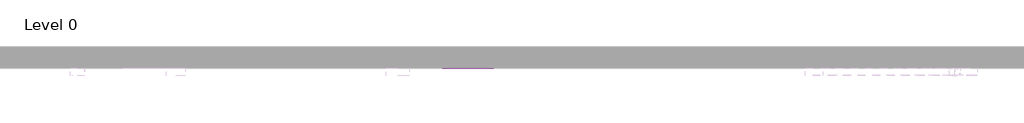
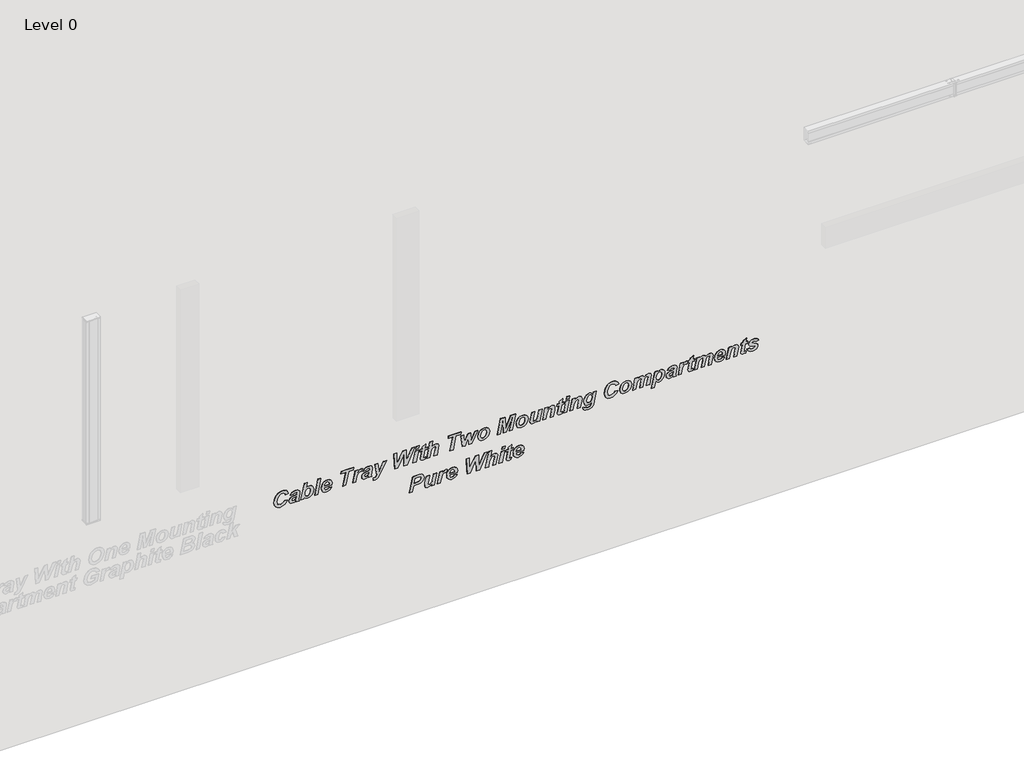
# One storey, part 5 of 5: 2 proxies.
"""IFC4 building model written with IfcOpenShell, lengths in millimetres."""

from ifc_helpers import new_model, si_unit, frame, origin, place, context, project, spatial, polyline, outline, extrude, element, save

model = new_model("IFC4")

# Units and contexts
model_context = context("Model", 3, world=origin())
ifc_project = project(units=[si_unit("LENGTHUNIT", "METRE", prefix="MILLI")], contexts=[model_context])

# Site, building, storey
site = spatial("IfcSite", under=ifc_project)
building = spatial("IfcBuilding", under=site)
storey = spatial("IfcBuildingStorey", under=building, Name="Level 0", Elevation=0.0)

# Proxies
placement = place(None, origin())
element("IfcBuildingElementProxy", 1, Name="200 mm Arial", ObjectType="200 mm Arial", at=placement, inside=storey, context=model_context, shape_type="SweptSolid", body=[
    extrude(outline(polyline([(1536.9009692, -777.7122909), (1526.554057, -784.0785483), (1519.0996299, -793.058273), (1513.0914454, -815.6587195), (1515.5375019, -827.8471495), (1522.8756716, -837.8499397), (1534.7060287, -844.5324174), (1550.6286478, -846.7599099), (1567.0488486, -845.0486004), (1583.4969513, -839.9146718), (1597.7826656, -831.9301108), (1607.7157013, -821.666904), (1613.5332236, -809.8318965), (1615.4723978, -797.1319337), (1614.0633576, -786.3199918), (1609.836237, -777.916904), (1602.4748159, -771.885468), (1591.6628739, -768.1884814), (1594.4158501, -739.6170528), (1613.9936031, -745.3415692), (1628.976862, -757.2323802), (1638.491371, -774.5175364), (1641.6628739, -796.4250885), (1638.8587445, -817.1886674), (1630.4463561, -836.3246421), (1616.741929, -852.651837), (1598.0616835, -864.9890766), (1575.8053591, -872.745773), (1551.3726954, -875.3313385), (1523.6662222, -871.5273951), (1503.4188263, -860.1155647), (1491.0304335, -841.9422016), (1486.9009692, -817.8536599), (1489.8771597, -795.3834218), (1498.8057311, -775.963779), (1513.3704632, -760.3108772), (1533.2551358, -749.1408623), (1536.9009692, -777.7122909)])), frame((0.0, 4018.0812827, 0.0), z_axis=(0.0, 1.0, 0.0), x_axis=(0.0, 0.0, 1.0)), (0.0, 0.0, 1.0), 3.0),
    extrude(outline(polyline([(1567.8533501, -694.3789576), (1576.6517132, -688.2405647), (1579.758112, -675.9265766), (1576.5029037, -664.8030647), (1568.4113858, -661.0456242), (1558.3295406, -662.980148), (1554.1628739, -690.8819337), (1550.4007832, -711.8408251), (1542.9835585, -725.2383326), (1532.1902177, -732.4509442), (1518.2997787, -734.855148), (1505.7253739, -732.6881093), (1495.6807311, -726.1869933), (1489.0959097, -716.3562641), (1486.9009692, -704.2003861), (1490.6212073, -687.5709218), (1501.4098978, -672.9503861), (1489.2819216, -670.5694337), (1489.2819216, -641.4771718), (1504.8325168, -644.3789576), (1532.2134692, -639.8402671), (1561.4359394, -633.385654), (1571.945612, -632.4741956), (1583.2504855, -634.9807061), (1592.6859394, -642.5002373), (1599.0614975, -655.2560037), (1601.1866835, -673.4712195), (1599.1359022, -691.6213311), (1592.9835585, -705.8186897), (1583.1853814, -716.2121049), (1570.1971001, -722.9503861), (1567.8533501, -694.3789576)]), holes=[polyline([(1539.2819216, -667.1096123), (1535.4128739, -667.9652671), (1519.7506716, -672.9317849), (1511.5289454, -681.3767254), (1508.3295406, -693.4116956), (1511.8265644, -702.7494933), (1520.4203144, -706.2837195), (1530.241743, -701.6706242), (1537.9798382, -673.917648), (1539.2819216, -667.1096123)])]), frame((0.0, 4018.0812827, 0.0), z_axis=(0.0, 1.0, 0.0), x_axis=(0.0, 0.0, 1.0)), (0.0, 0.0, 1.0), 3.0),
    extrude(outline(polyline([(1489.2819216, -622.9503861), (1489.2819216, -596.276279), (1506.5066239, -592.5188385), (1491.8023829, -578.7632581), (1486.9009692, -558.9250885), (1491.1606418, -540.5285111), (1504.2186775, -523.7874397), (1527.0423382, -511.0456242), (1555.9485882, -506.2837195), (1575.4147341, -508.855334), (1589.616743, -516.5701778), (1598.2941983, -528.5539948), (1601.1866835, -543.932529), (1598.5453144, -559.166904), (1589.7283501, -574.1780647), (1639.2819216, -563.2405647), (1639.2819216, -592.3328266), (1489.2819216, -622.9503861)]), holes=[polyline([(1533.2923382, -584.855148), (1553.2979186, -582.1393742), (1569.4158501, -573.9920528), (1577.1725466, -565.3331986), (1579.758112, -555.1304456), (1578.0886552, -547.3411971), (1573.0802847, -540.7889278), (1565.1515272, -536.338593), (1554.7209097, -534.855148), (1530.8927847, -539.2636302), (1513.7052847, -550.3127373), (1508.3295406, -564.2822314), (1510.0641016, -572.0389278), (1515.2677847, -578.7167552), (1523.2430451, -583.3205498), (1533.2923382, -584.855148)])]), frame((0.0, 4018.0812827, 0.0), z_axis=(0.0, 1.0, 0.0), x_axis=(0.0, 0.0, 1.0)), (0.0, 0.0, 1.0), 3.0),
    extrude(outline(polyline([(1489.2819216, -496.7599099), (1489.2819216, -467.667648), (1639.2819216, -437.0872909), (1639.2819216, -466.1423504), (1489.2819216, -496.7599099)])), frame((0.0, 4018.0812827, 0.0), z_axis=(0.0, 1.0, 0.0), x_axis=(0.0, 0.0, 1.0)), (0.0, 0.0, 1.0), 3.0),
    extrude(outline(polyline([(1534.5200168, -334.4831242), (1553.8652549, -332.4741956), (1573.7778293, -335.3666808), (1588.7238858, -344.0441361), (1598.0709841, -357.6323058), (1601.1866835, -375.2569337), (1599.710214, -389.7728378), (1595.2808055, -402.5169784), (1587.898458, -413.4893556), (1577.5631716, -422.6899695), (1558.8503739, -431.8138534), (1537.6822192, -434.855148), (1517.0116463, -431.4650811), (1500.8332608, -421.2948802), (1490.3840421, -405.7024323), (1486.9009692, -386.0456242), (1488.835493, -371.011212), (1494.6390644, -357.5299992), (1504.3116835, -346.104218), (1517.8533501, -337.2361004), (1522.6152549, -363.4265766), (1511.9009692, -372.9596867), (1508.3295406, -385.636398), (1509.9524945, -393.6721123), (1514.8213561, -400.3685409), (1522.3408873, -404.8886302), (1531.9158501, -406.3953266), (1534.5200168, -406.2837195), (1534.5200168, -334.4831242)]), holes=[polyline([(1551.1866835, -361.0456242), (1551.1866835, -403.3819337), (1563.5936775, -399.9593147), (1572.5408501, -394.3789576), (1577.9537966, -387.291904), (1579.758112, -379.3491956), (1578.1677103, -371.792462), (1573.3965049, -365.9377373), (1565.444496, -362.1849471), (1554.3116835, -360.9340171), (1551.1866835, -361.0456242)])]), frame((0.0, 4018.0812827, 0.0), z_axis=(0.0, 1.0, 0.0), x_axis=(0.0, 0.0, 1.0)), (0.0, 0.0, 1.0), 3.0),
    extrude(outline(polyline([(1489.2819216, -204.9072314), (1615.4723978, -179.4236004), (1615.4723978, -134.855148), (1639.2819216, -130.0932433), (1639.2819216, -246.7599099), (1615.4723978, -251.5218147), (1615.4723978, -208.5158623), (1489.2819216, -233.9994933), (1489.2819216, -204.9072314)])), frame((0.0, 4018.0812827, 0.0), z_axis=(0.0, 1.0, 0.0), x_axis=(0.0, 0.0, 1.0)), (0.0, 0.0, 1.0), 3.0),
    extrude(outline(polyline([(1598.8057311, -119.8625885), (1489.2819216, -141.9980052), (1489.2819216, -112.9429456), (1523.0988858, -106.1349099), (1553.7536478, -97.3923504), (1569.211237, -85.0783623), (1574.9962073, -69.6021718), (1573.5825168, -61.0456242), (1597.9500763, -49.1408623), (1601.1866835, -62.4593147), (1595.3738114, -79.386398), (1577.9351954, -95.0486004), (1598.8057311, -90.807529), (1598.8057311, -119.8625885)])), frame((0.0, 4018.0812827, 0.0), z_axis=(0.0, 1.0, 0.0), x_axis=(0.0, 0.0, 1.0)), (0.0, 0.0, 1.0), 3.0),
    extrude(outline(polyline([(1567.8533501, -18.1884814), (1576.6517132, -12.0500885), (1579.758112, 0.2638996), (1576.5029037, 11.3874115), (1568.4113858, 15.144852), (1558.3295406, 13.2103282), (1554.1628739, -14.6914576), (1550.4007832, -35.6503489), (1542.9835585, -49.0478564), (1532.1902177, -56.260468), (1518.2997787, -58.6646718), (1505.7253739, -56.4976331), (1495.6807311, -49.9965171), (1489.0959097, -40.1657879), (1486.9009692, -28.0099099), (1490.6212073, -11.3804456), (1501.4098978, 3.2400901), (1489.2819216, 5.6210424), (1489.2819216, 34.7133044), (1504.8325168, 31.8115186), (1532.2134692, 36.3502091), (1561.4359394, 42.8048222), (1571.945612, 43.7162805), (1583.2504855, 41.2097701), (1592.6859394, 33.6902389), (1599.0614975, 20.9344725), (1601.1866835, 2.7192567), (1599.1359022, -15.4308549), (1592.9835585, -29.6282135), (1583.1853814, -40.0216287), (1570.1971001, -46.7599099), (1567.8533501, -18.1884814)]), holes=[polyline([(1539.2819216, 9.0808639), (1535.4128739, 8.2252091), (1519.7506716, 3.2586913), (1511.5289454, -5.1862492), (1508.3295406, -17.2212195), (1511.8265644, -26.5590171), (1520.4203144, -30.0932433), (1530.241743, -25.480148), (1537.9798382, 2.2728282), (1539.2819216, 9.0808639)])]), frame((0.0, 4018.0812827, 0.0), z_axis=(0.0, 1.0, 0.0), x_axis=(0.0, 0.0, 1.0)), (0.0, 0.0, 1.0), 3.0),
    extrude(outline(polyline([(1598.8057311, 65.144852), (1489.2819216, 81.8115186), (1473.210493, 72.3993163), (1467.8533501, 60.6805663), (1469.3786478, 50.8591377), (1449.4009692, 48.4781853), (1446.4247787, 68.7534829), (1449.5497787, 84.3226794), (1458.1621299, 95.4089889), (1477.3771597, 108.0019948), (1598.8057311, 175.0778877), (1598.8057311, 143.7162805), (1548.3221001, 119.7579472), (1515.4723978, 104.1701496), (1543.3369811, 100.7847329), (1598.8057311, 94.0138996), (1598.8057311, 65.144852)])), frame((0.0, 4018.0812827, 0.0), z_axis=(0.0, 1.0, 0.0), x_axis=(0.0, 0.0, 1.0)), (0.0, 0.0, 1.0), 3.0),
    extrude(outline(polyline([(1489.2819216, 365.144852), (1639.2819216, 436.5734234), (1639.2819216, 408.0019948), (1535.4128739, 358.0019948), (1639.2819216, 355.6210424), (1639.2819216, 325.7103282), (1534.2968025, 269.9067567), (1639.2819216, 267.5258044), (1639.2819216, 238.9543758), (1489.2819216, 248.4781853), (1489.2819216, 279.4305663), (1598.9545406, 331.8115186), (1489.2819216, 334.192471), (1489.2819216, 365.144852)])), frame((0.0, 4018.0812827, 0.0), z_axis=(0.0, 1.0, 0.0), x_axis=(0.0, 0.0, 1.0)), (0.0, 0.0, 1.0), 3.0),
    extrude(outline(polyline([(1598.8057311, 442.2653877), (1489.2819216, 419.9067567), (1489.2819216, 448.9990186), (1598.8057311, 471.3576496), (1598.8057311, 442.2653877)])), frame((0.0, 4018.0812827, 0.0), z_axis=(0.0, 1.0, 0.0), x_axis=(0.0, 0.0, 1.0)), (0.0, 0.0, 1.0), 3.0),
    extrude(outline(polyline([(1639.2819216, 450.5243163), (1615.4723978, 445.6508044), (1615.4723978, 474.7430663), (1639.2819216, 479.6165782), (1639.2819216, 450.5243163)])), frame((0.0, 4018.0812827, 0.0), z_axis=(0.0, 1.0, 0.0), x_axis=(0.0, 0.0, 1.0)), (0.0, 0.0, 1.0), 3.0),
    extrude(outline(polyline([(1577.3771597, 484.192471), (1577.3771597, 500.0778877), (1531.8414454, 491.0749115), (1509.1107906, 486.5734234), (1499.8008948, 488.3405365), (1492.7789454, 493.6418758), (1488.3704632, 502.8308639), (1486.9009692, 516.2609234), (1488.3146597, 531.8115186), (1508.3295406, 536.5734234), (1507.6598978, 526.7891972), (1509.5572192, 518.9394948), (1514.8399573, 516.7817567), (1528.9024573, 519.6091377), (1577.3771597, 529.2445544), (1577.3771597, 546.0972329), (1598.8057311, 550.8591377), (1598.8057311, 533.5228282), (1634.5200168, 540.6656853), (1615.4723978, 507.8159829), (1598.8057311, 504.3189591), (1598.8057311, 488.9543758), (1577.3771597, 484.192471)])), frame((0.0, 4018.0812827, 0.0), z_axis=(0.0, 1.0, 0.0), x_axis=(0.0, 0.0, 1.0)), (0.0, 0.0, 1.0), 3.0),
    extrude(outline(polyline([(1489.2819216, 575.1894948), (1532.2134692, 583.9692567), (1557.883112, 590.5540782), (1574.5869811, 604.0957448), (1579.758112, 618.3814591), (1576.3168918, 627.6820544), (1567.1465049, 631.1046734), (1553.5676358, 628.426102), (1489.2819216, 615.144852), (1489.2819216, 644.2371139), (1552.3399573, 657.2579472), (1572.1316239, 661.3130067), (1583.9015272, 659.364532), (1593.1695704, 653.5191079), (1599.1824052, 644.3161689), (1601.1866835, 632.2951496), (1597.429243, 613.582352), (1585.1524573, 594.7579472), (1639.2819216, 605.8070544), (1639.2819216, 576.7147924), (1489.2819216, 546.0972329), (1489.2819216, 575.1894948)])), frame((0.0, 4018.0812827, 0.0), z_axis=(0.0, 1.0, 0.0), x_axis=(0.0, 0.0, 1.0)), (0.0, 0.0, 1.0), 3.0),
    extrude(outline(polyline([(1489.2819216, 792.7118163), (1615.4723978, 818.1954472), (1615.4723978, 862.7638996), (1639.2819216, 867.5258044), (1639.2819216, 750.8591377), (1615.4723978, 746.0972329), (1615.4723978, 789.1031853), (1489.2819216, 763.6195544), (1489.2819216, 792.7118163)])), frame((0.0, 4018.0812827, 0.0), z_axis=(0.0, 1.0, 0.0), x_axis=(0.0, 0.0, 1.0)), (0.0, 0.0, 1.0), 3.0),
    extrude(outline(polyline([(1489.2819216, 967.5258044), (1598.8057311, 1024.6686615), (1598.8057311, 996.0972329), (1527.3771597, 960.3829472), (1598.8057311, 955.6210424), (1598.8057311, 929.207352), (1527.3771597, 898.4781853), (1598.8057311, 891.3353282), (1598.8057311, 865.144852), (1489.2819216, 879.4305663), (1489.2819216, 905.2490186), (1558.9991835, 936.5734234), (1489.2819216, 941.3353282), (1489.2819216, 967.5258044)])), frame((0.0, 4018.0812827, 0.0), z_axis=(0.0, 1.0, 0.0), x_axis=(0.0, 0.0, 1.0)), (0.0, 0.0, 1.0), 3.0),
    extrude(outline(polyline([(1534.7804335, 1022.2877091), (1510.5430823, 1028.0726794), (1500.5309915, 1035.3550454), (1493.0765644, 1045.6322032), (1488.444868, 1058.2670618), (1486.9009692, 1072.6225305), (1491.7326284, 1097.8736466), (1506.2276061, 1117.4513996), (1527.3446076, 1130.0072032), (1552.0423382, 1134.192471), (1572.2525317, 1130.8442567), (1587.8682311, 1120.7996139), (1597.8570704, 1104.7932895), (1601.1866835, 1083.5600305), (1596.6758948, 1058.7181407), (1583.1435287, 1039.1775901), (1562.0311775, 1026.5101794), (1534.7804335, 1022.2877091)]), holes=[polyline([(1555.9113858, 1105.6210424), (1535.8314007, 1102.6727538), (1519.0438263, 1093.8278877), (1511.008112, 1084.583096), (1508.3295406, 1073.3665782), (1510.1059543, 1064.4845097), (1515.4351954, 1057.2579472), (1523.7778293, 1052.4588401), (1534.5944216, 1050.8591377), (1555.9671894, 1054.988602), (1573.6569216, 1066.5585424), (1578.2328144, 1074.5384532), (1579.758112, 1083.5972329), (1578.1305079, 1092.4188475), (1573.2476954, 1099.4640484), (1565.6584097, 1104.0817939), (1555.9113858, 1105.6210424)])]), frame((0.0, 4018.0812827, 0.0), z_axis=(0.0, 1.0, 0.0), x_axis=(0.0, 0.0, 1.0)), (0.0, 0.0, 1.0), 3.0),
    extrude(outline(polyline([(1489.2819216, 1288.9543758), (1613.0914454, 1342.5258044), (1489.2819216, 1317.5258044), (1489.2819216, 1346.6180663), (1639.2819216, 1374.7802686), (1639.2819216, 1328.7981258), (1531.8414454, 1281.8115186), (1639.2819216, 1277.2356258), (1639.2819216, 1233.4856258), (1489.2819216, 1202.8308639), (1489.2819216, 1231.8115186), (1613.1658501, 1254.4305663), (1489.2819216, 1260.3829472), (1489.2819216, 1288.9543758)])), frame((0.0, 4018.0812827, 0.0), z_axis=(0.0, 1.0, 0.0), x_axis=(0.0, 0.0, 1.0)), (0.0, 0.0, 1.0), 3.0),
    extrude(outline(polyline([(1534.7804335, 1379.4305663), (1510.5430823, 1385.2155365), (1500.5309915, 1392.4979026), (1493.0765644, 1402.7750603), (1488.444868, 1415.4099189), (1486.9009692, 1429.7653877), (1491.7326284, 1455.0165038), (1506.2276061, 1474.5942567), (1527.3446076, 1487.1500603), (1552.0423382, 1491.3353282), (1572.2525317, 1487.9871139), (1587.8682311, 1477.942471), (1597.8570704, 1461.9361466), (1601.1866835, 1440.7028877), (1596.6758948, 1415.8609978), (1583.1435287, 1396.3204472), (1562.0311775, 1383.6530365), (1534.7804335, 1379.4305663)]), holes=[polyline([(1555.9113858, 1462.7638996), (1535.8314007, 1459.8156109), (1519.0438263, 1450.9707448), (1511.008112, 1441.7259532), (1508.3295406, 1430.5094353), (1510.1059543, 1421.6273669), (1515.4351954, 1414.4008044), (1523.7778293, 1409.6016972), (1534.5944216, 1408.0019948), (1555.9671894, 1412.1314591), (1573.6569216, 1423.7013996), (1578.2328144, 1431.6813103), (1579.758112, 1440.7400901), (1578.1305079, 1449.5617047), (1573.2476954, 1456.6069055), (1565.6584097, 1461.2246511), (1555.9113858, 1462.7638996)])]), frame((0.0, 4018.0812827, 0.0), z_axis=(0.0, 1.0, 0.0), x_axis=(0.0, 0.0, 1.0)), (0.0, 0.0, 1.0), 3.0),
    extrude(outline(polyline([(1598.8057311, 1525.598721), (1537.3846001, 1511.8338401), (1514.6539454, 1508.0763996), (1503.2560659, 1509.9132672), (1494.4344513, 1515.4238698), (1488.7843397, 1524.1524785), (1486.9009692, 1535.6433639), (1491.2629483, 1555.1653133), (1504.3488858, 1573.1805663), (1489.2819216, 1570.0927686), (1489.2819216, 1598.9990186), (1598.8057311, 1621.3576496), (1598.8057311, 1592.2653877), (1545.383112, 1581.4766972), (1530.5765644, 1577.4588401), (1520.7365347, 1571.7110722), (1514.0959097, 1564.7914294), (1509.7618323, 1557.2579472), (1508.3295406, 1549.817471), (1511.7149573, 1541.2051198), (1519.8250763, 1537.8383044), (1534.2968025, 1540.442471), (1598.8057311, 1554.6909829), (1598.8057311, 1525.598721)])), frame((0.0, 4018.0812827, 0.0), z_axis=(0.0, 1.0, 0.0), x_axis=(0.0, 0.0, 1.0)), (0.0, 0.0, 1.0), 3.0),
    extrude(outline(polyline([(1598.8057311, 1649.1850305), (1489.2819216, 1627.0496139), (1489.2819216, 1656.1046734), (1533.7387668, 1665.1076496), (1559.8548382, 1673.5525901), (1574.289362, 1685.6619651), (1579.758112, 1699.7058639), (1576.3540942, 1708.7646436), (1566.9976954, 1712.019852), (1550.554243, 1708.7460424), (1489.2819216, 1696.0972329), (1489.2819216, 1725.1894948), (1550.3310287, 1737.801102), (1571.5363858, 1742.1537805), (1583.6364603, 1740.2285573), (1593.0765644, 1734.4528877), (1599.1591537, 1725.3476049), (1601.1866835, 1713.4335424), (1596.9828144, 1694.4045246), (1582.883112, 1675.0034829), (1598.8057311, 1678.2400901), (1598.8057311, 1649.1850305)])), frame((0.0, 4018.0812827, 0.0), z_axis=(0.0, 1.0, 0.0), x_axis=(0.0, 0.0, 1.0)), (0.0, 0.0, 1.0), 3.0),
    extrude(outline(polyline([(1577.3771597, 1760.3829472), (1577.3771597, 1776.2683639), (1531.8414454, 1767.2653877), (1509.1107906, 1762.7638996), (1499.8008948, 1764.5310127), (1492.7789454, 1769.832352), (1488.3704632, 1779.0213401), (1486.9009692, 1792.4513996), (1488.3146597, 1808.0019948), (1508.3295406, 1812.7638996), (1507.6598978, 1802.9796734), (1509.5572192, 1795.129971), (1514.8399573, 1792.9722329), (1528.9024573, 1795.7996139), (1577.3771597, 1805.4350305), (1577.3771597, 1822.2877091), (1598.8057311, 1827.0496139), (1598.8057311, 1809.7133044), (1634.5200168, 1816.8561615), (1615.4723978, 1784.0064591), (1598.8057311, 1780.5094353), (1598.8057311, 1765.144852), (1577.3771597, 1760.3829472)])), frame((0.0, 4018.0812827, 0.0), z_axis=(0.0, 1.0, 0.0), x_axis=(0.0, 0.0, 1.0)), (0.0, 0.0, 1.0), 3.0),
    extrude(outline(polyline([(1598.8057311, 1844.6463401), (1489.2819216, 1822.2877091), (1489.2819216, 1851.379971), (1598.8057311, 1873.738602), (1598.8057311, 1844.6463401)])), frame((0.0, 4018.0812827, 0.0), z_axis=(0.0, 1.0, 0.0), x_axis=(0.0, 0.0, 1.0)), (0.0, 0.0, 1.0), 3.0),
    extrude(outline(polyline([(1639.2819216, 1852.9052686), (1615.4723978, 1848.0317567), (1615.4723978, 1877.1240186), (1639.2819216, 1881.9975305), (1639.2819216, 1852.9052686)])), frame((0.0, 4018.0812827, 0.0), z_axis=(0.0, 1.0, 0.0), x_axis=(0.0, 0.0, 1.0)), (0.0, 0.0, 1.0), 3.0),
    extrude(outline(polyline([(1598.8057311, 1901.5659829), (1489.2819216, 1879.4305663), (1489.2819216, 1908.4856258), (1533.7387668, 1917.488602), (1559.8548382, 1925.9335424), (1574.289362, 1938.0429174), (1579.758112, 1952.0868163), (1576.3540942, 1961.145596), (1566.9976954, 1964.4008044), (1550.554243, 1961.1269948), (1489.2819216, 1948.4781853), (1489.2819216, 1977.5704472), (1550.3310287, 1990.1820544), (1571.5363858, 1994.5347329), (1583.6364603, 1992.6095097), (1593.0765644, 1986.8338401), (1599.1591537, 1977.7285573), (1601.1866835, 1965.8144948), (1596.9828144, 1946.785477), (1582.883112, 1927.3844353), (1598.8057311, 1930.6210424), (1598.8057311, 1901.5659829)])), frame((0.0, 4018.0812827, 0.0), z_axis=(0.0, 1.0, 0.0), x_axis=(0.0, 0.0, 1.0)), (0.0, 0.0, 1.0), 3.0),
    extrude(outline(polyline([(1479.758112, 2002.4588401), (1476.0378739, 2002.161221), (1462.3846001, 2005.2536689), (1453.2700168, 2014.5310127), (1448.1360882, 2029.8630439), (1446.4247787, 2051.1195544), (1448.0058799, 2069.5533341), (1453.2142132, 2084.3040782), (1462.179987, 2094.6463401), (1476.5401061, 2101.9194055), (1506.6554335, 2109.7133044), (1598.8057311, 2128.6865186), (1598.8057311, 2099.6314591), (1579.4976954, 2095.6508044), (1595.476118, 2082.1649413), (1601.1866835, 2063.098721), (1599.1359022, 2049.989532), (1592.9835585, 2037.1500603), (1582.8319588, 2025.863788), (1568.7834097, 2017.4141972), (1551.9865347, 2012.1407597), (1533.5899573, 2010.3829472), (1514.4725838, 2012.9685127), (1500.5728442, 2020.7252091), (1492.1046522, 2032.5183639), (1489.2819216, 2047.2133044), (1492.4162222, 2063.6939591), (1501.8191239, 2079.6537805), (1496.7223978, 2078.5749115), (1480.1301358, 2074.2594353), (1471.3503739, 2067.2281853), (1467.8533501, 2051.863602), (1469.0066239, 2040.0146436), (1471.7968025, 2033.7460424), (1476.6703144, 2031.8115186), (1479.758112, 2002.4588401)]), holes=[polyline([(1536.1569216, 2038.9543758), (1554.2000763, 2042.2653877), (1573.508112, 2053.3144948), (1579.758112, 2068.0094353), (1577.9863486, 2075.6731258), (1572.6710585, 2082.3695544), (1564.4632832, 2087.0291526), (1554.0140644, 2088.582352), (1533.1807311, 2084.7505067), (1516.5512668, 2073.7013996), (1510.710493, 2058.8204472), (1512.3380972, 2051.0125975), (1517.2209097, 2044.6277389), (1525.210121, 2040.3727166), (1536.1569216, 2038.9543758)])]), frame((0.0, 4018.0812827, 0.0), z_axis=(0.0, 1.0, 0.0), x_axis=(0.0, 0.0, 1.0)), (0.0, 0.0, 1.0), 3.0),
    extrude(outline(polyline([(1536.9009692, 2298.4781853), (1526.554057, 2292.1119279), (1519.0996299, 2283.1322032), (1513.0914454, 2260.5317567), (1515.5375019, 2248.3433267), (1522.8756716, 2238.3405365), (1534.7060287, 2231.6580588), (1550.6286478, 2229.4305663), (1567.0488486, 2231.1418758), (1583.4969513, 2236.2758044), (1597.7826656, 2244.2603654), (1607.7157013, 2254.5235722), (1613.5332236, 2266.3585797), (1615.4723978, 2279.0585424), (1614.0633576, 2289.8704844), (1609.836237, 2298.2735722), (1602.4748159, 2304.3050082), (1591.6628739, 2308.0019948), (1594.4158501, 2336.5734234), (1613.9936031, 2330.848907), (1628.976862, 2318.958096), (1638.491371, 2301.6729398), (1641.6628739, 2279.7653877), (1638.8587445, 2259.0018088), (1630.4463561, 2239.8658341), (1616.741929, 2223.5386392), (1598.0616835, 2211.2013996), (1575.8053591, 2203.4447032), (1551.3726954, 2200.8591377), (1523.6662222, 2204.6630811), (1503.4188263, 2216.0749115), (1491.0304335, 2234.2482746), (1486.9009692, 2258.3368163), (1489.8771597, 2280.8070544), (1498.8057311, 2300.2266972), (1513.3704632, 2315.879599), (1533.2551358, 2327.0496139), (1536.9009692, 2298.4781853)])), frame((0.0, 4018.0812827, 0.0), z_axis=(0.0, 1.0, 0.0), x_axis=(0.0, 0.0, 1.0)), (0.0, 0.0, 1.0), 3.0),
    extrude(outline(polyline([(1534.7804335, 2343.7162805), (1510.5430823, 2349.5012508), (1500.5309915, 2356.7836169), (1493.0765644, 2367.0607746), (1488.444868, 2379.6956332), (1486.9009692, 2394.051102), (1491.7326284, 2419.302218), (1506.2276061, 2438.879971), (1527.3446076, 2451.4357746), (1552.0423382, 2455.6210424), (1572.2525317, 2452.2728282), (1587.8682311, 2442.2281853), (1597.8570704, 2426.2218609), (1601.1866835, 2404.988602), (1596.6758948, 2380.1467121), (1583.1435287, 2360.6061615), (1562.0311775, 2347.9387508), (1534.7804335, 2343.7162805)]), holes=[polyline([(1555.9113858, 2427.0496139), (1535.8314007, 2424.1013252), (1519.0438263, 2415.2564591), (1511.008112, 2406.0116674), (1508.3295406, 2394.7951496), (1510.1059543, 2385.9130811), (1515.4351954, 2378.6865186), (1523.7778293, 2373.8874115), (1534.5944216, 2372.2877091), (1555.9671894, 2376.4171734), (1573.6569216, 2387.9871139), (1578.2328144, 2395.9670246), (1579.758112, 2405.0258044), (1578.1305079, 2413.8474189), (1573.2476954, 2420.8926198), (1565.6584097, 2425.5103654), (1555.9113858, 2427.0496139)])]), frame((0.0, 4018.0812827, 0.0), z_axis=(0.0, 1.0, 0.0), x_axis=(0.0, 0.0, 1.0)), (0.0, 0.0, 1.0), 3.0),
    extrude(outline(polyline([(1598.8057311, 2487.2802686), (1489.2819216, 2465.144852), (1489.2819216, 2494.1999115), (1538.835493, 2504.2445544), (1555.7625763, 2509.4156853), (1568.8578144, 2515.8888996), (1576.8563263, 2524.6686615), (1579.758112, 2534.3784829), (1576.9865347, 2542.2839889), (1569.8994811, 2545.1671734), (1555.1301358, 2542.8234234), (1489.2819216, 2529.4305663), (1489.2819216, 2558.5228282), (1537.9054335, 2568.567471), (1567.9277549, 2579.3561615), (1576.8005228, 2588.6567567), (1579.758112, 2599.1478282), (1576.8377251, 2607.3695544), (1568.8578144, 2610.1225305), (1554.6837073, 2607.1835424), (1489.2819216, 2593.7162805), (1489.2819216, 2622.8085424), (1554.6837073, 2636.2758044), (1573.6941239, 2640.1820544), (1584.8966909, 2638.3684383), (1593.6532013, 2632.9275901), (1599.3033129, 2624.2315335), (1601.1866835, 2612.6522924), (1595.5505228, 2590.7772924), (1581.5438263, 2574.6314591), (1595.9597489, 2566.1307151), (1599.8799498, 2558.0810499), (1601.1866835, 2547.2133044), (1596.7596001, 2529.8118907), (1583.4783501, 2513.2475305), (1598.8057311, 2516.3353282), (1598.8057311, 2487.2802686)])), frame((0.0, 4018.0812827, 0.0), z_axis=(0.0, 1.0, 0.0), x_axis=(0.0, 0.0, 1.0)), (0.0, 0.0, 1.0), 3.0),
    extrude(outline(polyline([(1598.8057311, 2669.9067567), (1446.4247787, 2638.9543758), (1446.4247787, 2668.0094353), (1503.976862, 2679.7281853), (1491.1699424, 2693.1861466), (1486.9009692, 2711.8338401), (1491.2443472, 2731.067471), (1504.2744811, 2747.5481258), (1526.9121299, 2760.7456704), (1554.1256716, 2765.144852), (1574.6567355, 2762.6429919), (1589.3749275, 2755.1374115), (1598.2337445, 2743.520968), (1601.1866835, 2728.6865186), (1597.9686775, 2712.6336913), (1587.272993, 2696.5808639), (1598.8057311, 2698.9246139), (1598.8057311, 2669.9067567)]), holes=[polyline([(1535.6360882, 2686.0897924), (1556.0601954, 2689.8844353), (1573.7499275, 2700.5801198), (1579.758112, 2715.8888996), (1578.116557, 2724.1013252), (1573.1918918, 2730.7326496), (1565.179429, 2735.1132299), (1554.2744811, 2736.5734234), (1531.3764156, 2732.1277389), (1513.6680823, 2720.911221), (1508.3295406, 2706.8859234), (1510.1199052, 2699.0315707), (1515.4909989, 2692.2839889), (1524.1080004, 2687.6383416), (1535.6360882, 2686.0897924)])]), frame((0.0, 4018.0812827, 0.0), z_axis=(0.0, 1.0, 0.0), x_axis=(0.0, 0.0, 1.0)), (0.0, 0.0, 1.0), 3.0),
    extrude(outline(polyline([(1567.8533501, 2817.5258044), (1576.6517132, 2823.6641972), (1579.758112, 2835.9781853), (1576.5029037, 2847.1016972), (1568.4113858, 2850.8591377), (1558.3295406, 2848.9246139), (1554.1628739, 2821.0228282), (1550.4007832, 2800.0639368), (1542.9835585, 2786.6664294), (1532.1902177, 2779.4538177), (1518.2997787, 2777.0496139), (1505.7253739, 2779.2166526), (1495.6807311, 2785.7177686), (1489.0959097, 2795.5484978), (1486.9009692, 2807.7043758), (1490.6212073, 2824.3338401), (1501.4098978, 2838.9543758), (1489.2819216, 2841.3353282), (1489.2819216, 2870.4275901), (1504.8325168, 2867.5258044), (1532.2134692, 2872.0644948), (1561.4359394, 2878.5191079), (1571.945612, 2879.4305663), (1583.2504855, 2876.9240558), (1592.6859394, 2869.4045246), (1599.0614975, 2856.6487582), (1601.1866835, 2838.4335424), (1599.1359022, 2820.2834308), (1592.9835585, 2806.0860722), (1583.1853814, 2795.692657), (1570.1971001, 2788.9543758), (1567.8533501, 2817.5258044)]), holes=[polyline([(1539.2819216, 2844.7951496), (1535.4128739, 2843.9394948), (1519.7506716, 2838.972977), (1511.5289454, 2830.5280365), (1508.3295406, 2818.4930663), (1511.8265644, 2809.1552686), (1520.4203144, 2805.6210424), (1530.241743, 2810.2341377), (1537.9798382, 2837.9871139), (1539.2819216, 2844.7951496)])]), frame((0.0, 4018.0812827, 0.0), z_axis=(0.0, 1.0, 0.0), x_axis=(0.0, 0.0, 1.0)), (0.0, 0.0, 1.0), 3.0),
    extrude(outline(polyline([(1598.8057311, 2911.0897924), (1489.2819216, 2888.9543758), (1489.2819216, 2918.0094353), (1523.0988858, 2924.817471), (1553.7536478, 2933.5600305), (1569.211237, 2945.8740186), (1574.9962073, 2961.3502091), (1573.5825168, 2969.9067567), (1597.9500763, 2981.8115186), (1601.1866835, 2968.4930663), (1595.3738114, 2951.5659829), (1577.9351954, 2935.9037805), (1598.8057311, 2940.144852), (1598.8057311, 2911.0897924)])), frame((0.0, 4018.0812827, 0.0), z_axis=(0.0, 1.0, 0.0), x_axis=(0.0, 0.0, 1.0)), (0.0, 0.0, 1.0), 3.0),
    extrude(outline(polyline([(1577.3771597, 2977.0496139), (1577.3771597, 2992.9350305), (1531.8414454, 2983.9320544), (1509.1107906, 2979.4305663), (1499.8008948, 2981.1976794), (1492.7789454, 2986.4990186), (1488.3704632, 2995.6880067), (1486.9009692, 3009.1180663), (1488.3146597, 3024.6686615), (1508.3295406, 3029.4305663), (1507.6598978, 3019.6463401), (1509.5572192, 3011.7966377), (1514.8399573, 3009.6388996), (1528.9024573, 3012.4662805), (1577.3771597, 3022.1016972), (1577.3771597, 3038.9543758), (1598.8057311, 3043.7162805), (1598.8057311, 3026.379971), (1634.5200168, 3033.5228282), (1615.4723978, 3000.6731258), (1598.8057311, 2997.176102), (1598.8057311, 2981.8115186), (1577.3771597, 2977.0496139)])), frame((0.0, 4018.0812827, 0.0), z_axis=(0.0, 1.0, 0.0), x_axis=(0.0, 0.0, 1.0)), (0.0, 0.0, 1.0), 3.0),
    extrude(outline(polyline([(1598.8057311, 3061.0897924), (1489.2819216, 3038.9543758), (1489.2819216, 3068.0094353), (1538.835493, 3078.0540782), (1555.7625763, 3083.2252091), (1568.8578144, 3089.6984234), (1576.8563263, 3098.4781853), (1579.758112, 3108.1880067), (1576.9865347, 3116.0935127), (1569.8994811, 3118.9766972), (1555.1301358, 3116.6329472), (1489.2819216, 3103.2400901), (1489.2819216, 3132.332352), (1537.9054335, 3142.3769948), (1567.9277549, 3153.1656853), (1576.8005228, 3162.4662805), (1579.758112, 3172.957352), (1576.8377251, 3181.1790782), (1568.8578144, 3183.9320544), (1554.6837073, 3180.9930663), (1489.2819216, 3167.5258044), (1489.2819216, 3196.6180663), (1554.6837073, 3210.0853282), (1573.6941239, 3213.9915782), (1584.8966909, 3212.1779621), (1593.6532013, 3206.7371139), (1599.3033129, 3198.0410573), (1601.1866835, 3186.4618163), (1595.5505228, 3164.5868163), (1581.5438263, 3148.4409829), (1595.9597489, 3139.9402389), (1599.8799498, 3131.8905737), (1601.1866835, 3121.0228282), (1596.7596001, 3103.6214145), (1583.4783501, 3087.0570544), (1598.8057311, 3090.144852), (1598.8057311, 3061.0897924)])), frame((0.0, 4018.0812827, 0.0), z_axis=(0.0, 1.0, 0.0), x_axis=(0.0, 0.0, 1.0)), (0.0, 0.0, 1.0), 3.0),
    extrude(outline(polyline([(1534.5200168, 3327.4216377), (1553.8652549, 3329.4305663), (1573.7778293, 3326.5380811), (1588.7238858, 3317.8606258), (1598.0709841, 3304.2724561), (1601.1866835, 3286.6478282), (1599.710214, 3272.1319241), (1595.2808055, 3259.3877835), (1587.898458, 3248.4154063), (1577.5631716, 3239.2147924), (1558.8503739, 3230.0909085), (1537.6822192, 3227.0496139), (1517.0116463, 3230.4396808), (1500.8332608, 3240.6098817), (1490.3840421, 3256.2023297), (1486.9009692, 3275.8591377), (1488.835493, 3290.8935499), (1494.6390644, 3304.3747627), (1504.3116835, 3315.8005439), (1517.8533501, 3324.6686615), (1522.6152549, 3298.4781853), (1511.9009692, 3288.9450752), (1508.3295406, 3276.2683639), (1509.9524945, 3268.2326496), (1514.8213561, 3261.536221), (1522.3408873, 3257.0161317), (1531.9158501, 3255.5094353), (1534.5200168, 3255.6210424), (1534.5200168, 3327.4216377)]), holes=[polyline([(1551.1866835, 3300.8591377), (1551.1866835, 3258.5228282), (1563.5936775, 3261.9454472), (1572.5408501, 3267.5258044), (1577.9537966, 3274.6128579), (1579.758112, 3282.5555663), (1578.1677103, 3290.1122999), (1573.3965049, 3295.9670246), (1565.444496, 3299.7198148), (1554.3116835, 3300.9707448), (1551.1866835, 3300.8591377)])]), frame((0.0, 4018.0812827, 0.0), z_axis=(0.0, 1.0, 0.0), x_axis=(0.0, 0.0, 1.0)), (0.0, 0.0, 1.0), 3.0),
    extrude(outline(polyline([(1598.8057311, 3358.7088401), (1489.2819216, 3336.5734234), (1489.2819216, 3365.6284829), (1533.7387668, 3374.6314591), (1559.8548382, 3383.0763996), (1574.289362, 3395.1857746), (1579.758112, 3409.2296734), (1576.3540942, 3418.2884532), (1566.9976954, 3421.5436615), (1550.554243, 3418.269852), (1489.2819216, 3405.6210424), (1489.2819216, 3434.7133044), (1550.3310287, 3447.3249115), (1571.5363858, 3451.6775901), (1583.6364603, 3449.7523669), (1593.0765644, 3443.9766972), (1599.1591537, 3434.8714145), (1601.1866835, 3422.957352), (1596.9828144, 3403.9283341), (1582.883112, 3384.5272924), (1598.8057311, 3387.7638996), (1598.8057311, 3358.7088401)])), frame((0.0, 4018.0812827, 0.0), z_axis=(0.0, 1.0, 0.0), x_axis=(0.0, 0.0, 1.0)), (0.0, 0.0, 1.0), 3.0),
    extrude(outline(polyline([(1577.3771597, 3469.9067567), (1577.3771597, 3485.7921734), (1531.8414454, 3476.7891972), (1509.1107906, 3472.2877091), (1499.8008948, 3474.0548222), (1492.7789454, 3479.3561615), (1488.3704632, 3488.5451496), (1486.9009692, 3501.9752091), (1488.3146597, 3517.5258044), (1508.3295406, 3522.2877091), (1507.6598978, 3512.5034829), (1509.5572192, 3504.6537805), (1514.8399573, 3502.4960424), (1528.9024573, 3505.3234234), (1577.3771597, 3514.9588401), (1577.3771597, 3531.8115186), (1598.8057311, 3536.5734234), (1598.8057311, 3519.2371139), (1634.5200168, 3526.379971), (1615.4723978, 3493.5302686), (1598.8057311, 3490.0332448), (1598.8057311, 3474.6686615), (1577.3771597, 3469.9067567)])), frame((0.0, 4018.0812827, 0.0), z_axis=(0.0, 1.0, 0.0), x_axis=(0.0, 0.0, 1.0)), (0.0, 0.0, 1.0), 3.0),
    extrude(outline(polyline([(1520.4575168, 3529.4305663), (1506.28806, 3536.0153877), (1495.6993323, 3546.692471), (1489.10056, 3562.0570544), (1486.9009692, 3582.7043758), (1489.7516016, 3603.4679547), (1498.3034989, 3618.958096), (1510.7430451, 3628.598163), (1525.2566239, 3631.8115186), (1536.398737, 3629.3561615), (1545.7923382, 3621.9900901), (1558.1063263, 3594.3859234), (1563.8726954, 3578.6121139), (1570.3459097, 3574.6686615), (1576.9121299, 3578.2772924), (1579.758112, 3590.1076496), (1576.0750763, 3604.1701496), (1567.8533501, 3610.3829472), (1572.2060287, 3638.9543758), (1584.1758948, 3634.2250231), (1593.3741835, 3625.6173222), (1599.2335585, 3612.5732374), (1601.1866835, 3594.5347329), (1597.9221745, 3571.8319799), (1588.1286478, 3555.5094353), (1577.8886924, 3548.4502835), (1565.8444216, 3546.0972329), (1554.1070704, 3548.5804919), (1544.8622787, 3556.0302686), (1530.8741835, 3588.9171734), (1525.3310287, 3601.082352), (1520.085493, 3603.2400901), (1512.7566239, 3599.036221), (1508.3295406, 3582.8903877), (1512.1055823, 3567.4513996), (1524.9962073, 3558.0019948), (1520.4575168, 3529.4305663)])), frame((0.0, 4018.0812827, 0.0), z_axis=(0.0, 1.0, 0.0), x_axis=(0.0, 0.0, 1.0)), (0.0, 0.0, 1.0), 3.0),
])
element("IfcBuildingElementProxy", 2, Name="200 mm Arial", ObjectType="200 mm Arial", at=placement, inside=storey, context=model_context, shape_type="SweptSolid", body=[
    extrude(outline(polyline([(1204.4097392, 414.1343009), (1261.5525963, 425.8158485), (1261.5525963, 445.8679319), (1262.594263, 473.5465033), (1267.6351856, 493.7101938), (1277.4194118, 507.698289), (1294.625513, 518.6729914), (1316.7237273, 523.1372771), (1337.8918821, 517.5941223), (1345.4904684, 511.0651045), (1350.577894, 502.5643604), (1354.4097392, 476.7831104), (1354.4097392, 415.6223961), (1204.4097392, 385.042039), (1204.4097392, 414.1343009)]), holes=[polyline([(1285.3621202, 430.6521581), (1330.6002154, 439.8783485), (1330.6002154, 463.7250747), (1328.9447094, 484.6700152), (1323.6433702, 491.9616819), (1314.3427749, 494.5658485), (1298.8293821, 489.5249259), (1288.5615249, 475.7414438), (1285.3621202, 440.8456104), (1285.3621202, 430.6521581)])]), frame((0.0, 4018.0812827, 0.0), z_axis=(0.0, 1.0, 0.0), x_axis=(0.0, 0.0, 1.0)), (0.0, 0.0, 1.0), 3.0),
    extrude(outline(polyline([(1313.9335487, 545.4959081), (1252.5124178, 531.7310271), (1229.781763, 527.9735866), (1218.3838836, 529.8104542), (1209.562269, 535.3210569), (1203.9121574, 544.0496655), (1202.0287868, 555.5405509), (1206.390766, 575.0625003), (1219.4767035, 593.0777533), (1204.4097392, 589.9899557), (1204.4097392, 618.8962057), (1313.9335487, 641.2548366), (1313.9335487, 612.1625747), (1260.5109297, 601.3738842), (1245.7043821, 597.3560271), (1235.8643523, 591.6082592), (1229.2237273, 584.6886164), (1224.8896499, 577.1551342), (1223.4573583, 569.7146581), (1226.8427749, 561.1023069), (1234.952894, 557.7354914), (1249.4246202, 560.3396581), (1313.9335487, 574.58817), (1313.9335487, 545.4959081)])), frame((0.0, 4018.0812827, 0.0), z_axis=(0.0, 1.0, 0.0), x_axis=(0.0, 0.0, 1.0)), (0.0, 0.0, 1.0), 3.0),
    extrude(outline(polyline([(1313.9335487, 669.0822176), (1204.4097392, 646.9468009), (1204.4097392, 676.0018604), (1238.2267035, 682.8098961), (1268.8814654, 691.5524557), (1284.3390547, 703.8664438), (1290.1240249, 719.3426342), (1288.7103344, 727.8991819), (1313.077894, 739.8039438), (1316.3145011, 726.4854914), (1310.5016291, 709.5584081), (1293.063013, 693.8962057), (1313.9335487, 698.1372771), (1313.9335487, 669.0822176)])), frame((0.0, 4018.0812827, 0.0), z_axis=(0.0, 1.0, 0.0), x_axis=(0.0, 0.0, 1.0)), (0.0, 0.0, 1.0), 3.0),
    extrude(outline(polyline([(1249.6478344, 833.0331104), (1268.9930725, 835.042039), (1288.9056469, 832.1495539), (1303.8517035, 823.4720985), (1313.1988017, 809.8839289), (1316.3145011, 792.2593009), (1314.8380316, 777.7433969), (1310.4086231, 764.9992563), (1303.0262757, 754.026879), (1292.6909892, 744.8262652), (1273.9781916, 735.7023813), (1252.8100368, 732.6610866), (1232.1394639, 736.0511536), (1215.9610785, 746.2213545), (1205.5118597, 761.8138024), (1202.0287868, 781.4706104), (1203.9633106, 796.5050226), (1209.7668821, 809.9862354), (1219.4395011, 821.4120167), (1232.9811678, 830.2801342), (1237.7430725, 804.0896581), (1227.0287868, 794.5565479), (1223.4573583, 781.8798366), (1225.0803121, 773.8441223), (1229.9491737, 767.1476938), (1237.468705, 762.6276045), (1247.0436678, 761.1209081), (1249.6478344, 761.2325152), (1249.6478344, 833.0331104)]), holes=[polyline([(1266.3145011, 806.4706104), (1266.3145011, 764.1343009), (1278.7214952, 767.55692), (1287.6686678, 773.1372771), (1293.0816142, 780.2243307), (1294.8859297, 788.167039), (1293.2955279, 795.7237726), (1288.5243225, 801.5784973), (1280.5723136, 805.3312875), (1269.4395011, 806.5822176), (1266.3145011, 806.4706104)])]), frame((0.0, 4018.0812827, 0.0), z_axis=(0.0, 1.0, 0.0), x_axis=(0.0, 0.0, 1.0)), (0.0, 0.0, 1.0), 3.0),
    extrude(outline(polyline([(1204.4097392, 1039.8039438), (1354.4097392, 1111.2325152), (1354.4097392, 1082.6610866), (1250.5406916, 1032.6610866), (1354.4097392, 1030.2801342), (1354.4097392, 1000.36942), (1249.4246202, 944.5658485), (1354.4097392, 942.1848961), (1354.4097392, 913.6134676), (1204.4097392, 923.1372771), (1204.4097392, 954.0896581), (1314.0823583, 1006.4706104), (1204.4097392, 1008.8515628), (1204.4097392, 1039.8039438)])), frame((0.0, 4018.0812827, 0.0), z_axis=(0.0, 1.0, 0.0), x_axis=(0.0, 0.0, 1.0)), (0.0, 0.0, 1.0), 3.0),
    extrude(outline(polyline([(1204.4097392, 1123.6581104), (1247.3412868, 1132.4378723), (1273.0109297, 1139.0226938), (1289.7147987, 1152.5643604), (1294.8859297, 1166.8500747), (1291.4447094, 1176.15067), (1282.2743225, 1179.573289), (1268.6954535, 1176.8947176), (1204.4097392, 1163.6134676), (1204.4097392, 1192.7057295), (1267.4677749, 1205.7265628), (1287.2594416, 1209.7816223), (1299.0293449, 1207.8331476), (1308.297388, 1201.9877235), (1314.3102228, 1192.7847845), (1316.3145011, 1180.7637652), (1312.5570606, 1162.0509676), (1300.2802749, 1143.2265628), (1354.4097392, 1154.27567), (1354.4097392, 1125.1834081), (1204.4097392, 1094.5658485), (1204.4097392, 1123.6581104)])), frame((0.0, 4018.0812827, 0.0), z_axis=(0.0, 1.0, 0.0), x_axis=(0.0, 0.0, 1.0)), (0.0, 0.0, 1.0), 3.0),
    extrude(outline(polyline([(1313.9335487, 1243.1149557), (1204.4097392, 1220.7563247), (1204.4097392, 1249.8485866), (1313.9335487, 1272.2072176), (1313.9335487, 1243.1149557)])), frame((0.0, 4018.0812827, 0.0), z_axis=(0.0, 1.0, 0.0), x_axis=(0.0, 0.0, 1.0)), (0.0, 0.0, 1.0), 3.0),
    extrude(outline(polyline([(1354.4097392, 1251.3738842), (1330.6002154, 1246.5003723), (1330.6002154, 1275.5926342), (1354.4097392, 1280.4661461), (1354.4097392, 1251.3738842)])), frame((0.0, 4018.0812827, 0.0), z_axis=(0.0, 1.0, 0.0), x_axis=(0.0, 0.0, 1.0)), (0.0, 0.0, 1.0), 3.0),
    extrude(outline(polyline([(1292.5049773, 1285.042039), (1292.5049773, 1300.9274557), (1246.969263, 1291.9244795), (1224.2386083, 1287.4229914), (1214.9287124, 1289.1901045), (1207.906763, 1294.4914438), (1203.4982809, 1303.6804319), (1202.0287868, 1317.1104914), (1203.4424773, 1332.6610866), (1223.4573583, 1337.4229914), (1222.7877154, 1327.6387652), (1224.6850368, 1319.7890628), (1229.9677749, 1317.6313247), (1244.0302749, 1320.4587057), (1292.5049773, 1330.0941223), (1292.5049773, 1346.9468009), (1313.9335487, 1351.7087057), (1313.9335487, 1334.3723961), (1349.6478344, 1341.5152533), (1330.6002154, 1308.6655509), (1313.9335487, 1305.1685271), (1313.9335487, 1289.8039438), (1292.5049773, 1285.042039)])), frame((0.0, 4018.0812827, 0.0), z_axis=(0.0, 1.0, 0.0), x_axis=(0.0, 0.0, 1.0)), (0.0, 0.0, 1.0), 3.0),
    extrude(outline(polyline([(1249.6478344, 1452.0807295), (1268.9930725, 1454.0896581), (1288.9056469, 1451.1971729), (1303.8517035, 1442.5197176), (1313.1988017, 1428.9315479), (1316.3145011, 1411.30692), (1314.8380316, 1396.7910159), (1310.4086231, 1384.0468753), (1303.0262757, 1373.0744981), (1292.6909892, 1363.8738842), (1273.9781916, 1354.7500003), (1252.8100368, 1351.7087057), (1232.1394639, 1355.0987726), (1215.9610785, 1365.2689735), (1205.5118597, 1380.8614214), (1202.0287868, 1400.5182295), (1203.9633106, 1415.5526417), (1209.7668821, 1429.0338545), (1219.4395011, 1440.4596357), (1232.9811678, 1449.3277533), (1237.7430725, 1423.1372771), (1227.0287868, 1413.604167), (1223.4573583, 1400.9274557), (1225.0803121, 1392.8917414), (1229.9491737, 1386.1953128), (1237.468705, 1381.6752235), (1247.0436678, 1380.1685271), (1249.6478344, 1380.2801342), (1249.6478344, 1452.0807295)]), holes=[polyline([(1266.3145011, 1425.5182295), (1266.3145011, 1383.18192), (1278.7214952, 1386.604539), (1287.6686678, 1392.1848961), (1293.0816142, 1399.2719497), (1294.8859297, 1407.2146581), (1293.2955279, 1414.7713917), (1288.5243225, 1420.6261164), (1280.5723136, 1424.3789066), (1269.4395011, 1425.6298366), (1266.3145011, 1425.5182295)])]), frame((0.0, 4018.0812827, 0.0), z_axis=(0.0, 1.0, 0.0), x_axis=(0.0, 0.0, 1.0)), (0.0, 0.0, 1.0), 3.0),
])

save(model, "model.ifc")
